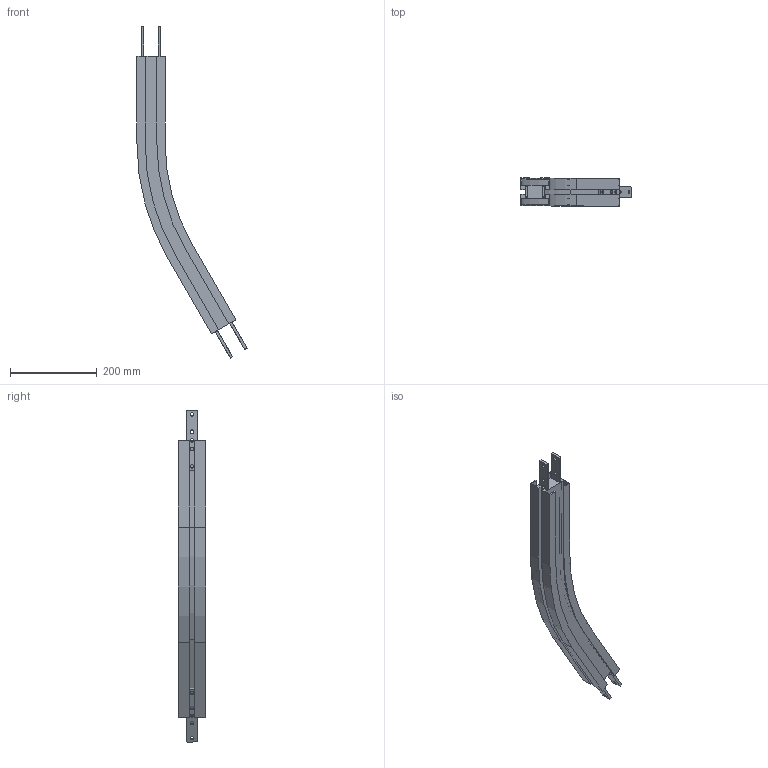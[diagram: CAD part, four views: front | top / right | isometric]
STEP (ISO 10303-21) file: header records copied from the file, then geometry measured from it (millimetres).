
FILE_DESCRIPTION (( 'STEP AP203' ), '1' );
FILE_NAME ('FSHB30R500.STEP', '2007-12-12T08:26:23', ( ' ' ), ( ' ' ), 'SwSTEP 2.0', 'SolidWorks 2008', '' );
FILE_SCHEMA (( 'CONFIG_CONTROL_DESIGN' ));
Length unit declared in the file: millimetre
Products named in the file (1): FSHB30R500
Bounding box: 253.63 x 64 x 764.88 mm (x, y, z)
Volume: 1185725.8 mm3; surface area: 414291.5 mm2
Topology: 1 solids, 1 shells, 166 faces, 460 edges, 300 vertices
Faces by surface type: plane 92, cylinder 74
Entity records: 5441 total; most frequent: DIRECTION 946, CARTESIAN_POINT 927, ORIENTED_EDGE 920, EDGE_CURVE 460, AXIS2_PLACEMENT_3D 319, VECTOR 308, LINE 308, VERTEX_POINT 300
